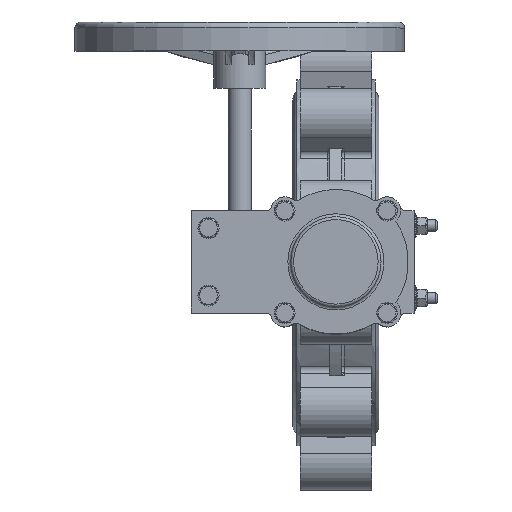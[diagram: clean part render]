
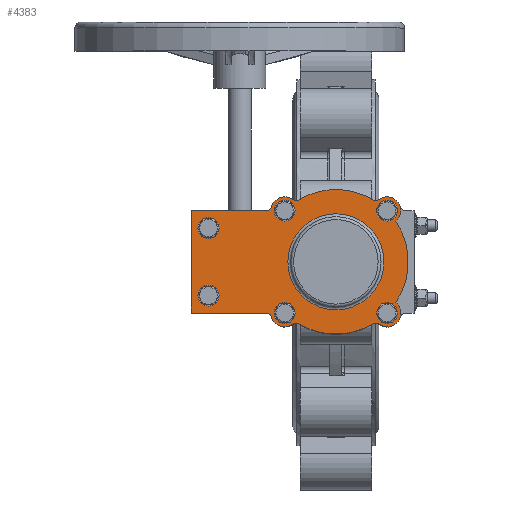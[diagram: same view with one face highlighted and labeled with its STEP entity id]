
A CAD part, top view. The second image highlights one B-rep face of the part: STEP entity #4383.
In plain terms, the highlighted planar face has unit normal (0, 0, 1).
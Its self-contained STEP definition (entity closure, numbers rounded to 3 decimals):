
#4383=ADVANCED_FACE('',(#9931,#9933,#9935,#9937,#9939,#9941,#9943,#9945),#9947,.T.);
#9931=FACE_BOUND('',#9932,.T.);
#9932=EDGE_LOOP('',(#18165,#18166,#18167,#18168,#18169,#18170,#18171,#18172,#18173,
#18174,#18175,#18176,#18177,#18178,#18179,#18180));
#9933=FACE_BOUND('',#9934,.T.);
#9934=EDGE_LOOP('',(#18181));
#9935=FACE_BOUND('',#9936,.T.);
#9936=EDGE_LOOP('',(#18182));
#9937=FACE_BOUND('',#9938,.T.);
#9938=EDGE_LOOP('',(#18183));
#9939=FACE_BOUND('',#9940,.T.);
#9940=EDGE_LOOP('',(#18184));
#9941=FACE_BOUND('',#9942,.T.);
#9942=EDGE_LOOP('',(#18185));
#9943=FACE_BOUND('',#9944,.T.);
#9944=EDGE_LOOP('',(#18186));
#9945=FACE_BOUND('',#9946,.T.);
#9946=EDGE_LOOP('',(#18187));
#9947=PLANE('',#9948);
#9948=AXIS2_PLACEMENT_3D('',#9949,#9950,#9951);
#9949=CARTESIAN_POINT('',(0.,0.,5.));
#9950=DIRECTION('',(0.,0.,1.));
#9951=DIRECTION('',(0.,1.,0.));
#18165=ORIENTED_EDGE('',*,*,#20729,.T.);
#18166=ORIENTED_EDGE('',*,*,#20730,.T.);
#18167=ORIENTED_EDGE('',*,*,#20731,.T.);
#18168=ORIENTED_EDGE('',*,*,#20732,.T.);
#18169=ORIENTED_EDGE('',*,*,#20733,.T.);
#18170=ORIENTED_EDGE('',*,*,#20734,.T.);
#18171=ORIENTED_EDGE('',*,*,#20735,.T.);
#18172=ORIENTED_EDGE('',*,*,#20736,.T.);
#18173=ORIENTED_EDGE('',*,*,#20737,.T.);
#18174=ORIENTED_EDGE('',*,*,#20738,.T.);
#18175=ORIENTED_EDGE('',*,*,#20739,.T.);
#18176=ORIENTED_EDGE('',*,*,#20740,.T.);
#18177=ORIENTED_EDGE('',*,*,#20741,.T.);
#18178=ORIENTED_EDGE('',*,*,#20742,.T.);
#18179=ORIENTED_EDGE('',*,*,#20743,.T.);
#18180=ORIENTED_EDGE('',*,*,#20744,.T.);
#18181=ORIENTED_EDGE('',*,*,#20745,.T.);
#18182=ORIENTED_EDGE('',*,*,#20746,.T.);
#18183=ORIENTED_EDGE('',*,*,#20747,.T.);
#18184=ORIENTED_EDGE('',*,*,#20748,.T.);
#18185=ORIENTED_EDGE('',*,*,#20749,.T.);
#18186=ORIENTED_EDGE('',*,*,#20750,.T.);
#18187=ORIENTED_EDGE('',*,*,#20751,.F.);
#20729=EDGE_CURVE('',#24171,#24172,#24173,.T.);
#20730=EDGE_CURVE('',#24172,#24174,#24175,.T.);
#20731=EDGE_CURVE('',#24174,#24176,#24177,.T.);
#20732=EDGE_CURVE('',#24176,#24178,#24179,.T.);
#20733=EDGE_CURVE('',#24178,#24180,#24181,.T.);
#20734=EDGE_CURVE('',#24180,#24182,#24183,.T.);
#20735=EDGE_CURVE('',#24182,#24184,#24185,.T.);
#20736=EDGE_CURVE('',#24184,#24186,#24187,.T.);
#20737=EDGE_CURVE('',#24186,#24188,#24189,.T.);
#20738=EDGE_CURVE('',#24188,#24190,#24191,.T.);
#20739=EDGE_CURVE('',#24190,#24192,#24193,.T.);
#20740=EDGE_CURVE('',#24192,#24194,#24195,.T.);
#20741=EDGE_CURVE('',#24194,#24196,#24197,.T.);
#20742=EDGE_CURVE('',#24196,#24198,#24199,.T.);
#20743=EDGE_CURVE('',#24198,#24200,#24201,.T.);
#20744=EDGE_CURVE('',#24200,#24171,#24202,.T.);
#20745=EDGE_CURVE('',#24203,#24203,#24204,.F.);
#20746=EDGE_CURVE('',#24205,#24205,#24206,.F.);
#20747=EDGE_CURVE('',#24207,#24207,#24208,.F.);
#20748=EDGE_CURVE('',#24209,#24209,#24210,.F.);
#20749=EDGE_CURVE('',#24211,#24211,#24212,.F.);
#20750=EDGE_CURVE('',#24213,#24213,#24214,.F.);
#20751=EDGE_CURVE('',#24215,#24215,#24216,.T.);
#24171=VERTEX_POINT('',#35262);
#24172=VERTEX_POINT('',#35263);
#24173=CIRCLE('',#35264,5.);
#24174=VERTEX_POINT('',#35268);
#24175=CIRCLE('',#35269,12.);
#24176=VERTEX_POINT('',#35273);
#24177=CIRCLE('',#35274,5.);
#24178=VERTEX_POINT('',#35278);
#24179=LINE('',#35279,#35280);
#24180=VERTEX_POINT('',#35282);
#24181=LINE('',#35283,#35284);
#24182=VERTEX_POINT('',#35286);
#24183=LINE('',#35287,#35288);
#24184=VERTEX_POINT('',#35290);
#24185=CIRCLE('',#35291,5.);
#24186=VERTEX_POINT('',#35295);
#24187=CIRCLE('',#35296,12.);
#24188=VERTEX_POINT('',#35300);
#24189=CIRCLE('',#35301,5.);
#24190=VERTEX_POINT('',#35305);
#24191=CIRCLE('',#35306,62.5);
#24192=VERTEX_POINT('',#35310);
#24193=CIRCLE('',#35311,5.);
#24194=VERTEX_POINT('',#35315);
#24195=CIRCLE('',#35316,12.);
#24196=VERTEX_POINT('',#35320);
#24197=CIRCLE('',#35321,62.5);
#24198=VERTEX_POINT('',#35325);
#24199=CIRCLE('',#35326,12.);
#24200=VERTEX_POINT('',#35330);
#24201=CIRCLE('',#35331,5.);
#24202=CIRCLE('',#35335,62.5);
#24203=VERTEX_POINT('',#35339);
#24204=CIRCLE('',#35340,5.);
#24205=VERTEX_POINT('',#35344);
#24206=CIRCLE('',#35345,5.);
#24207=VERTEX_POINT('',#35349);
#24208=CIRCLE('',#35350,5.);
#24209=VERTEX_POINT('',#35354);
#24210=CIRCLE('',#35355,5.);
#24211=VERTEX_POINT('',#35359);
#24212=CIRCLE('',#35360,5.);
#24213=VERTEX_POINT('',#35364);
#24214=CIRCLE('',#35365,5.);
#24215=VERTEX_POINT('',#35369);
#24216=CIRCLE('',#35370,41.5);
#35262=CARTESIAN_POINT('',(53.78,31.843,5.));
#35263=CARTESIAN_POINT('',(53.998,37.274,5.));
#35264=AXIS2_PLACEMENT_3D('',#35265,#35266,#35267);
#35265=CARTESIAN_POINT('',(58.082,34.39,5.));
#35266=DIRECTION('',(0.,0.,-1.));
#35267=DIRECTION('',(-0.86,-0.509,0.));
#35268=CARTESIAN_POINT('',(47.724,55.663,5.));
#35269=AXIS2_PLACEMENT_3D('',#35270,#35271,#35272);
#35270=CARTESIAN_POINT('',(44.194,44.194,5.));
#35271=DIRECTION('',(0.,0.,1.));
#35272=DIRECTION('',(0.817,-0.577,0.));
#35273=CARTESIAN_POINT('',(44.194,60.442,5.));
#35274=AXIS2_PLACEMENT_3D('',#35275,#35276,#35277);
#35275=CARTESIAN_POINT('',(49.194,60.442,5.));
#35276=DIRECTION('',(0.,0.,-1.));
#35277=DIRECTION('',(-0.294,-0.956,0.));
#35278=CARTESIAN_POINT('',(44.194,125.,5.));
#35279=CARTESIAN_POINT('',(44.194,60.442,5.));
#35280=VECTOR('',#35281,1.);
#35281=DIRECTION('',(0.,1.,0.));
#35282=CARTESIAN_POINT('',(-44.194,125.,5.));
#35283=CARTESIAN_POINT('',(44.194,125.,5.));
#35284=VECTOR('',#35285,1.);
#35285=DIRECTION('',(-1.,0.,0.));
#35286=CARTESIAN_POINT('',(-44.194,60.442,5.));
#35287=CARTESIAN_POINT('',(-44.194,125.,5.));
#35288=VECTOR('',#35289,1.);
#35289=DIRECTION('',(0.,-1.,0.));
#35290=CARTESIAN_POINT('',(-47.724,55.663,5.));
#35291=AXIS2_PLACEMENT_3D('',#35292,#35293,#35294);
#35292=CARTESIAN_POINT('',(-49.194,60.442,5.));
#35293=DIRECTION('',(0.,0.,-1.));
#35294=DIRECTION('',(1.,0.,0.));
#35295=CARTESIAN_POINT('',(-53.998,37.274,5.));
#35296=AXIS2_PLACEMENT_3D('',#35297,#35298,#35299);
#35297=CARTESIAN_POINT('',(-44.194,44.194,5.));
#35298=DIRECTION('',(0.,0.,1.));
#35299=DIRECTION('',(-0.294,0.956,0.));
#35300=CARTESIAN_POINT('',(-53.78,31.843,5.));
#35301=AXIS2_PLACEMENT_3D('',#35302,#35303,#35304);
#35302=CARTESIAN_POINT('',(-58.082,34.39,5.));
#35303=DIRECTION('',(0.,0.,-1.));
#35304=DIRECTION('',(0.817,0.577,0.));
#35305=CARTESIAN_POINT('',(-53.78,-31.843,5.));
#35306=AXIS2_PLACEMENT_3D('',#35307,#35308,#35309);
#35307=CARTESIAN_POINT('',(0.,0.,5.));
#35308=DIRECTION('',(0.,0.,1.));
#35309=DIRECTION('',(-0.86,0.509,0.));
#35310=CARTESIAN_POINT('',(-53.998,-37.274,5.));
#35311=AXIS2_PLACEMENT_3D('',#35312,#35313,#35314);
#35312=CARTESIAN_POINT('',(-58.082,-34.39,5.));
#35313=DIRECTION('',(0.,0.,-1.));
#35314=DIRECTION('',(0.86,0.509,0.));
#35315=CARTESIAN_POINT('',(-34.933,-51.826,5.));
#35316=AXIS2_PLACEMENT_3D('',#35317,#35318,#35319);
#35317=CARTESIAN_POINT('',(-44.194,-44.194,5.));
#35318=DIRECTION('',(0.,0.,1.));
#35319=DIRECTION('',(-0.817,0.577,0.));
#35320=CARTESIAN_POINT('',(34.933,-51.826,5.));
#35321=AXIS2_PLACEMENT_3D('',#35322,#35323,#35324);
#35322=CARTESIAN_POINT('',(0.,0.,5.));
#35323=DIRECTION('',(0.,0.,1.));
#35324=DIRECTION('',(-0.559,-0.829,0.));
#35325=CARTESIAN_POINT('',(53.998,-37.274,5.));
#35326=AXIS2_PLACEMENT_3D('',#35327,#35328,#35329);
#35327=CARTESIAN_POINT('',(44.194,-44.194,5.));
#35328=DIRECTION('',(0.,0.,1.));
#35329=DIRECTION('',(-0.772,-0.636,0.));
#35330=CARTESIAN_POINT('',(53.78,-31.843,5.));
#35331=AXIS2_PLACEMENT_3D('',#35332,#35333,#35334);
#35332=CARTESIAN_POINT('',(58.082,-34.39,5.));
#35333=DIRECTION('',(0.,0.,-1.));
#35334=DIRECTION('',(-0.817,-0.577,0.));
#35335=AXIS2_PLACEMENT_3D('',#35336,#35337,#35338);
#35336=CARTESIAN_POINT('',(0.,0.,5.));
#35337=DIRECTION('',(0.,0.,1.));
#35338=DIRECTION('',(0.86,-0.509,0.));
#35339=CARTESIAN_POINT('',(29.194,115.,5.));
#35340=AXIS2_PLACEMENT_3D('',#35341,#35342,#35343);
#35341=CARTESIAN_POINT('',(29.194,110.,5.));
#35342=DIRECTION('',(0.,0.,1.));
#35343=DIRECTION('',(0.,1.,0.));
#35344=CARTESIAN_POINT('',(-29.194,115.,5.));
#35345=AXIS2_PLACEMENT_3D('',#35346,#35347,#35348);
#35346=CARTESIAN_POINT('',(-29.194,110.,5.));
#35347=DIRECTION('',(0.,0.,1.));
#35348=DIRECTION('',(0.,1.,0.));
#35349=CARTESIAN_POINT('',(44.194,49.194,5.));
#35350=AXIS2_PLACEMENT_3D('',#35351,#35352,#35353);
#35351=CARTESIAN_POINT('',(44.194,44.194,5.));
#35352=DIRECTION('',(0.,0.,1.));
#35353=DIRECTION('',(0.,1.,0.));
#35354=CARTESIAN_POINT('',(49.194,-44.194,5.));
#35355=AXIS2_PLACEMENT_3D('',#35356,#35357,#35358);
#35356=CARTESIAN_POINT('',(44.194,-44.194,5.));
#35357=DIRECTION('',(0.,0.,1.));
#35358=DIRECTION('',(1.,0.,0.));
#35359=CARTESIAN_POINT('',(-44.194,-49.194,5.));
#35360=AXIS2_PLACEMENT_3D('',#35361,#35362,#35363);
#35361=CARTESIAN_POINT('',(-44.194,-44.194,5.));
#35362=DIRECTION('',(0.,0.,1.));
#35363=DIRECTION('',(0.,-1.,0.));
#35364=CARTESIAN_POINT('',(-49.194,44.194,5.));
#35365=AXIS2_PLACEMENT_3D('',#35366,#35367,#35368);
#35366=CARTESIAN_POINT('',(-44.194,44.194,5.));
#35367=DIRECTION('',(0.,0.,1.));
#35368=DIRECTION('',(-1.,0.,0.));
#35369=CARTESIAN_POINT('',(-41.5,0.,5.));
#35370=AXIS2_PLACEMENT_3D('',#35371,#35372,#35373);
#35371=CARTESIAN_POINT('',(0.,0.,5.));
#35372=DIRECTION('',(0.,0.,1.));
#35373=DIRECTION('',(-1.,0.,0.));
